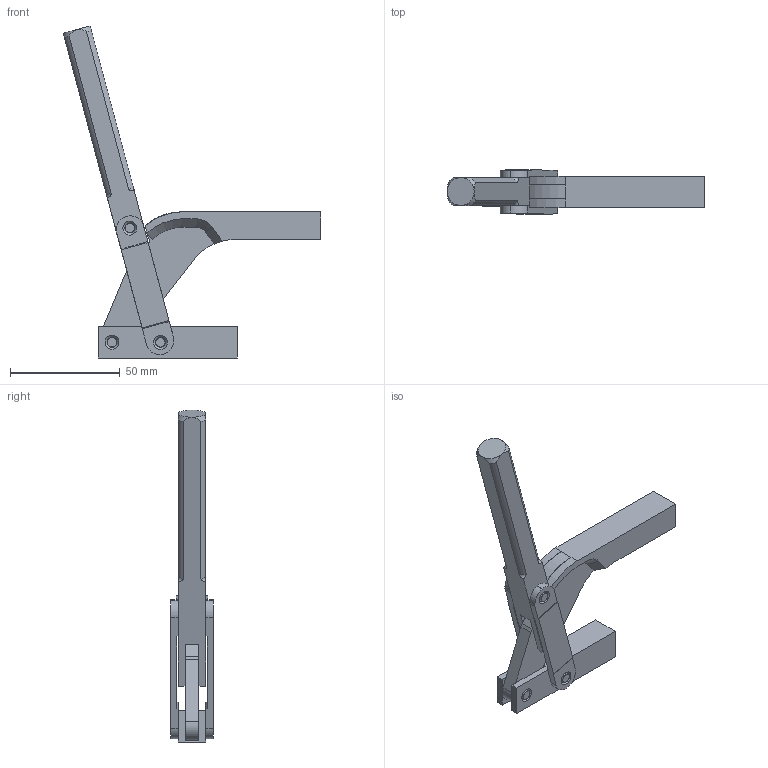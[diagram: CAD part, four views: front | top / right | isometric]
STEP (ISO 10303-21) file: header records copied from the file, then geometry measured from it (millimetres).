
FILE_DESCRIPTION(/* description */ (''),/* implementation_level */ '2;1');
FILE_NAME(/* name */ 'c105',/* time_stamp */ '2002-05-29T11:58:18-05:00',/* author */ (''),/* organization */ (''),/* preprocessor_version */ 'ST-DEVELOPER v8',/* originating_system */ 'UNIGRAPHICS SOLUTIONS - UNIGRAPHICS 18.0',/* authorisation */ '');
FILE_SCHEMA (('CONFIG_CONTROL_DESIGN'));
Length unit declared in the file: inch
Products named in the file (1): guesCE81001m
Bounding box: 117.49 x 20.07 x 151.46 mm (x, y, z)
Volume: 51507 mm3; surface area: 23243.3 mm2
Topology: 10 solids, 10 shells, 137 faces, 330 edges, 213 vertices
Faces by surface type: plane 80, cylinder 37, cone 16, torus 4
Full cylindrical faces by diameter (mm): 4.28 x5, 4.788 x8, 6.299 x4
Entity records: 4066 total; most frequent: CARTESIAN_POINT 818, DIRECTION 646, ORIENTED_EDGE 608, EDGE_CURVE 304, AXIS2_PLACEMENT_3D 228, VERTEX_POINT 212, LINE 190, VECTOR 190
